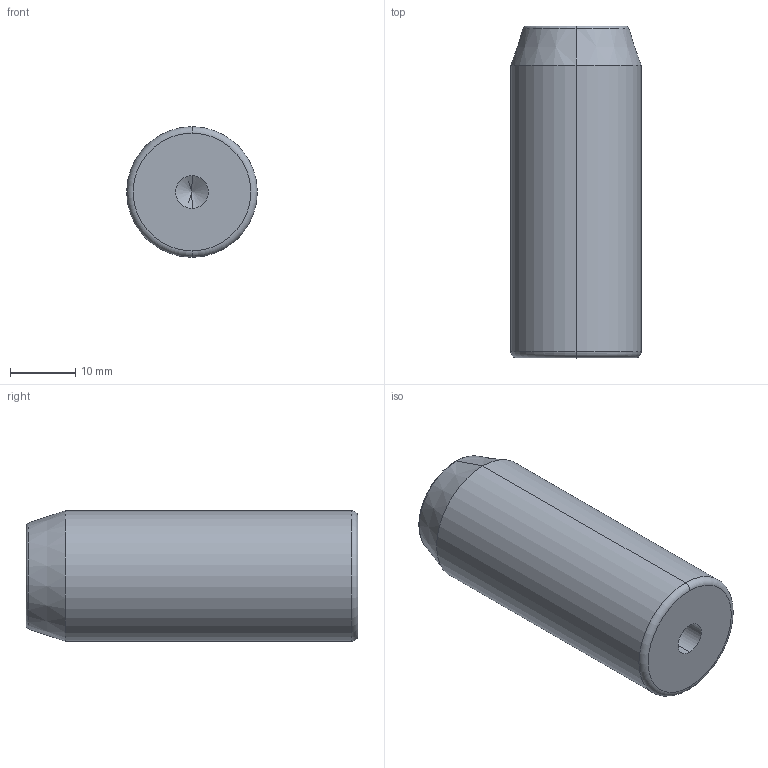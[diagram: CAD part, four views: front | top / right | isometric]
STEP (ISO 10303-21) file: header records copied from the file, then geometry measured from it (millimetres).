
FILE_DESCRIPTION (( 'STEP AP203' ), '1' );
FILE_NAME ('(STEP)M-PXD-2.STEP', '2020-04-06T02:43:43', ( '' ), ( '' ), 'SwSTEP 2.0', 'SolidWorks 2019', '' );
FILE_SCHEMA (( 'CONFIG_CONTROL_DESIGN' ));
Length unit declared in the file: millimetre
Products named in the file (1): (STEP)M-PXD-2
Bounding box: 20 x 50.8 x 20 mm (x, y, z)
Volume: 15278 mm3; surface area: 3937.6 mm2
Topology: 1 solids, 1 shells, 18 faces, 38 edges, 20 vertices
Faces by surface type: cone 6, cylinder 6, torus 4, plane 2
Entity records: 533 total; most frequent: DIRECTION 94, CARTESIAN_POINT 73, ORIENTED_EDGE 68, AXIS2_PLACEMENT_3D 41, EDGE_CURVE 34, CIRCLE 22, VERTEX_POINT 20, EDGE_LOOP 20
